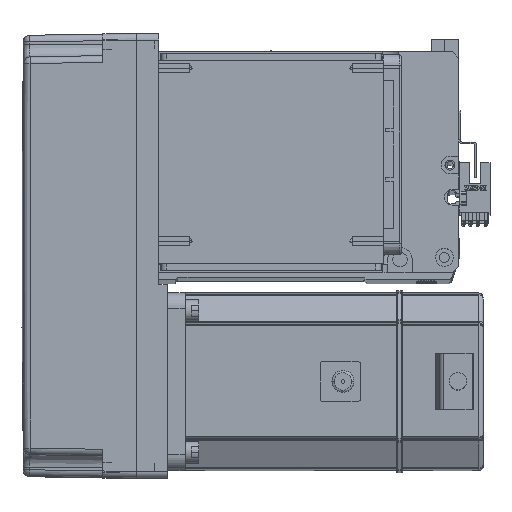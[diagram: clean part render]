
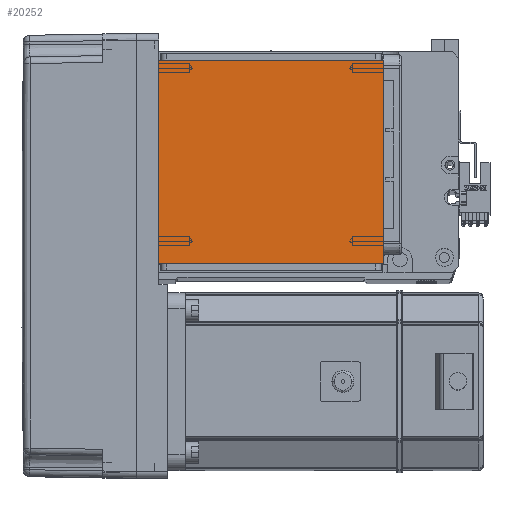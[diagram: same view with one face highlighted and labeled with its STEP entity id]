
A CAD part, top view. The second image highlights one B-rep face of the part: STEP entity #20252.
In plain terms, the highlighted planar face has unit normal (0, 0, 1).
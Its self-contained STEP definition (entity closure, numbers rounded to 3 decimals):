
#4632 = CARTESIAN_POINT ( 'NONE',  ( -50.5, 122., 115. ) ) ;
#5734 = LINE ( 'NONE', #52281, #42204 ) ;
#5777 = ORIENTED_EDGE ( 'NONE', *, *, #40627, .T. ) ;
#9643 = DIRECTION ( 'NONE',  ( 0., -1., 0. ) ) ;
#10476 = AXIS2_PLACEMENT_3D ( 'NONE', #30688, #44234, #48729 ) ;
#10601 = EDGE_CURVE ( 'NONE', #51170, #15316, #36039, .T. ) ;
#11720 = LINE ( 'NONE', #35061, #55201 ) ;
#12581 = LINE ( 'NONE', #4632, #19586 ) ;
#12648 = DIRECTION ( 'NONE',  ( 1., 0., 0. ) ) ;
#14411 = EDGE_CURVE ( 'NONE', #51170, #26119, #5734, .T. ) ;
#14420 = ORIENTED_EDGE ( 'NONE', *, *, #14411, .F. ) ;
#15316 = VERTEX_POINT ( 'NONE', #44225 ) ;
#18403 = VECTOR ( 'NONE', #24173, 1000. ) ;
#19586 = VECTOR ( 'NONE', #9643, 1000. ) ;
#19850 = CARTESIAN_POINT ( 'NONE',  ( 50.5, 122., 115. ) ) ;
#19955 = ORIENTED_EDGE ( 'NONE', *, *, #10601, .T. ) ;
#20252 = ADVANCED_FACE ( 'NONE', ( #25499 ), #26152, .T. ) ;
#24173 = DIRECTION ( 'NONE',  ( 0., 1., 0. ) ) ;
#25499 = FACE_OUTER_BOUND ( 'NONE', #29209, .T. ) ;
#26119 = VERTEX_POINT ( 'NONE', #38607 ) ;
#26152 = PLANE ( 'NONE',  #10476 ) ;
#26898 = ORIENTED_EDGE ( 'NONE', *, *, #27251, .F. ) ;
#27251 = EDGE_CURVE ( 'NONE', #46028, #15316, #11720, .T. ) ;
#29209 = EDGE_LOOP ( 'NONE', ( #26898, #5777, #14420, #19955 ) ) ;
#30688 = CARTESIAN_POINT ( 'NONE',  ( 0., 0., 115. ) ) ;
#33643 = DIRECTION ( 'NONE',  ( -1., 0., 0. ) ) ;
#35061 = CARTESIAN_POINT ( 'NONE',  ( -70.004, 111.5, 115. ) ) ;
#36039 = LINE ( 'NONE', #19850, #18403 ) ;
#38607 = CARTESIAN_POINT ( 'NONE',  ( -50.5, 20., 115. ) ) ;
#40627 = EDGE_CURVE ( 'NONE', #46028, #26119, #12581, .T. ) ;
#42204 = VECTOR ( 'NONE', #33643, 1000. ) ;
#44225 = CARTESIAN_POINT ( 'NONE',  ( 50.5, 111.5, 115. ) ) ;
#44234 = DIRECTION ( 'NONE',  ( 0., 0., 1. ) ) ;
#46028 = VERTEX_POINT ( 'NONE', #57238 ) ;
#48729 = DIRECTION ( 'NONE',  ( 1., 0., 0. ) ) ;
#51170 = VERTEX_POINT ( 'NONE', #55348 ) ;
#52281 = CARTESIAN_POINT ( 'NONE',  ( -70.004, 20., 115. ) ) ;
#55201 = VECTOR ( 'NONE', #12648, 1000. ) ;
#55348 = CARTESIAN_POINT ( 'NONE',  ( 50.5, 20., 115. ) ) ;
#57238 = CARTESIAN_POINT ( 'NONE',  ( -50.5, 111.5, 115. ) ) ;
